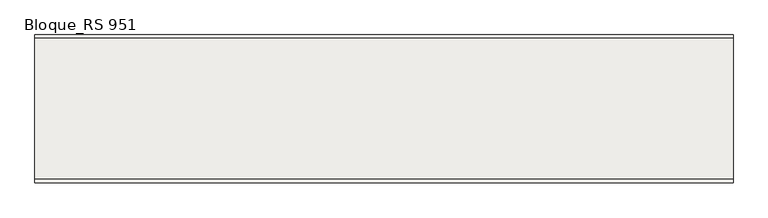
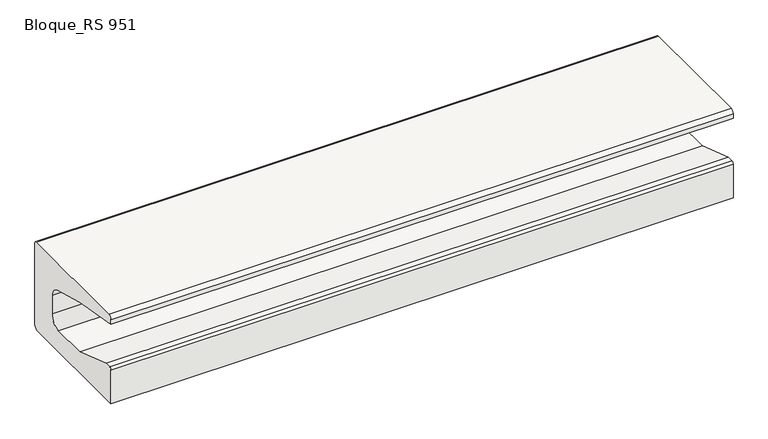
"""IFC4 building model written with IfcOpenShell, lengths in millimetres: slab geometry, ROSA GRES_RS 951 : Bloque_RS 951."""

from ifc_helpers import new_model, si_unit, point, frame, frame_2d, origin, place, context, project, spatial, polyline, circle_curve, trimmed, segment, composite_curve, outline, extrude, source, transform, mapped, element, save


def bloque_rs_951_bd9da47f(model_context):
    return source(origin(), model_context, "Body", "SweptSolid", [
        extrude(outline(composite_curve([segment(polyline([(20.0, 10.0), (20.0, 90.0094288)]), True, "CONTINUOUS"), segment(trimmed(circle_curve(frame_2d((25.0, 90.0094288)), 5.0), [point((20.0, 90.0094288))], [point((25.0, 95.0094288))], False, "CARTESIAN"), True, "CONTINUOUS"), segment(polyline([(25.0, 95.0094288), (38.2035251, 95.0094288), (141.2759641, 60.0838698), (225.0599333, 60.0838698)]), True, "CONTINUOUS"), segment(trimmed(circle_curve(frame_2d((225.2461128, 84.8382752)), 24.7551055), [point((225.0599333, 60.0838698))], [point((250.0, 85.0838698))], True, "CARTESIAN"), True, "CONTINUOUS"), segment(polyline([(250.0, 85.0838698), (250.0, 128.9393377)]), True, "CONTINUOUS"), segment(trimmed(circle_curve(frame_2d((225.2461128, 129.1849323)), 24.7551055), [point((250.0, 128.9393377))], [point((231.9063097, 153.0272691))], True, "CARTESIAN"), True, "CONTINUOUS"), segment(polyline([(231.9063097, 153.0272691), (141.4794893, 178.287395), (19.9999903, 200.0838698), (19.9999903, 210.2775772)]), True, "CONTINUOUS"), segment(trimmed(circle_curve(frame_2d((27.9999903, 210.2775772)), 8.0), [point((19.9999903, 210.2775772))], [point((27.9999903, 218.2775772))], False, "CARTESIAN"), True, "CONTINUOUS"), segment(polyline([(27.9999903, 218.2775772), (311.9003845, 218.2775772)]), True, "CONTINUOUS"), segment(trimmed(circle_curve(frame_2d((312.2133333, 213.297208)), 4.9901918), [point((311.9003845, 218.2775772))], [point((317.2035155, 213.2873902))], False, "CARTESIAN"), True, "CONTINUOUS"), segment(polyline([(317.2035155, 213.2873902), (317.2035155, 20.0)]), True, "CONTINUOUS"), segment(trimmed(circle_curve(frame_2d((307.2035155, 20.0)), 10.0), [point((317.2035155, 20.0))], [point((307.2035155, 10.0))], False, "CARTESIAN"), True, "CONTINUOUS"), segment(polyline([(307.2035155, 10.0), (20.0, 10.0)]), True, "CONTINUOUS")], self_intersect=False)), frame((0.0, 0.0, 0.0), z_axis=(1.0, 0.0, 0.0), x_axis=(0.0, 1.0, 0.0)), (0.0, 0.0, 1.0), 1404.5),
    ])


if __name__ == "__main__":
    model = new_model("IFC4")
    model_context = context("Model", 3, world=origin())
    ifc_project = project(units=[si_unit("LENGTHUNIT", "METRE", prefix="MILLI")], contexts=[model_context])
    site = spatial("IfcSite", under=ifc_project)
    building = spatial("IfcBuilding", under=site)
    placement = place(None, origin())
    bloque_rs_951_shape = bloque_rs_951_bd9da47f(model_context)
    element("IfcSlab", 1, ObjectType="ROSA GRES_RS 951 : Bloque_RS 951", at=placement, inside=building, context=model_context, shape_type="MappedRepresentation", body=[
        mapped(bloque_rs_951_shape, transform((0.0, 0.0, 0.0), x_axis=(1.0, 0.0, 0.0), y_axis=(0.0, 1.0, 0.0), z_axis=(0.0, 0.0, 1.0))),
    ])
    save(model, "model.ifc")
